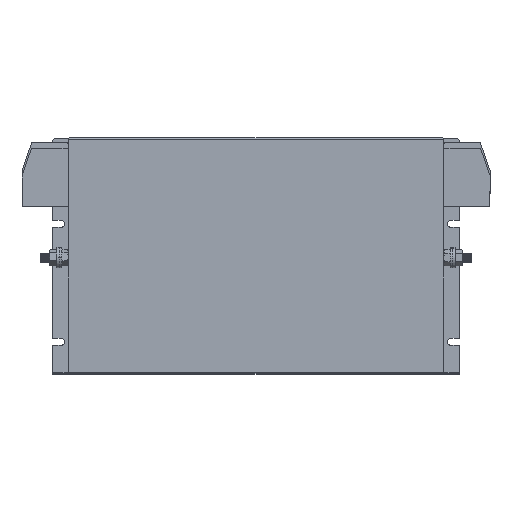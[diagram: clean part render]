
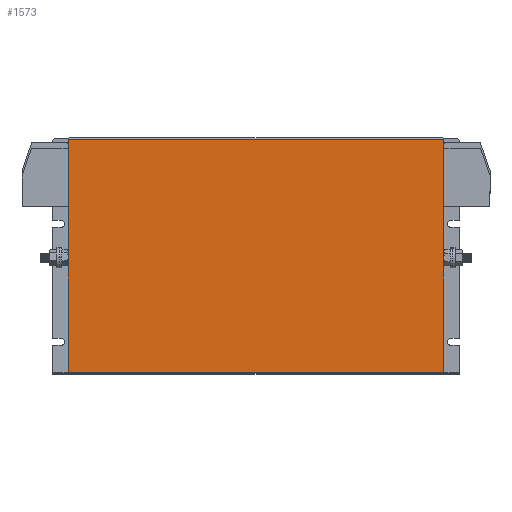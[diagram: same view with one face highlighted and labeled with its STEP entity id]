
A CAD part, top view. The second image highlights one B-rep face of the part: STEP entity #1573.
In plain terms, the highlighted planar face has unit normal (0, 0, 1).
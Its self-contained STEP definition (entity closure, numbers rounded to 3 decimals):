
#526 = PLANE ( 'NONE',  #3547 ) ;
#1135 = EDGE_CURVE ( 'NONE', #7913, #2499, #1857, .T. ) ;
#1382 = LINE ( 'NONE', #3379, #8867 ) ;
#1573 = ADVANCED_FACE ( 'NONE', ( #4833 ), #526, .F. ) ;
#1857 = LINE ( 'NONE', #4136, #5986 ) ;
#2076 = CARTESIAN_POINT ( 'NONE',  ( 14.5, 220., 1.5 ) ) ;
#2097 = CARTESIAN_POINT ( 'NONE',  ( 364.5, 220., 1.5 ) ) ;
#2339 = ORIENTED_EDGE ( 'NONE', *, *, #3861, .T. ) ;
#2499 = VERTEX_POINT ( 'NONE', #4038 ) ;
#2622 = CARTESIAN_POINT ( 'NONE',  ( 14.5, 218.5, 1.5 ) ) ;
#2753 = VERTEX_POINT ( 'NONE', #5530 ) ;
#3083 = DIRECTION ( 'NONE',  ( -1., 0., 0. ) ) ;
#3117 = VECTOR ( 'NONE', #3813, 1000. ) ;
#3379 = CARTESIAN_POINT ( 'NONE',  ( 14.5, 1.5, 1.5 ) ) ;
#3428 = DIRECTION ( 'NONE',  ( 0., -1., 0. ) ) ;
#3547 = AXIS2_PLACEMENT_3D ( 'NONE', #2076, #7426, #3083 ) ;
#3813 = DIRECTION ( 'NONE',  ( -1., 0., 0. ) ) ;
#3861 = EDGE_CURVE ( 'NONE', #2499, #9047, #1382, .T. ) ;
#4038 = CARTESIAN_POINT ( 'NONE',  ( 14.5, 1.5, 1.5 ) ) ;
#4136 = CARTESIAN_POINT ( 'NONE',  ( 14.5, 220., 1.5 ) ) ;
#4203 = ORIENTED_EDGE ( 'NONE', *, *, #1135, .T. ) ;
#4745 = DIRECTION ( 'NONE',  ( 1., 0., 0. ) ) ;
#4833 = FACE_OUTER_BOUND ( 'NONE', #7823, .T. ) ;
#5059 = LINE ( 'NONE', #5145, #3117 ) ;
#5145 = CARTESIAN_POINT ( 'NONE',  ( 14.5, 218.5, 1.5 ) ) ;
#5416 = ORIENTED_EDGE ( 'NONE', *, *, #7694, .F. ) ;
#5530 = CARTESIAN_POINT ( 'NONE',  ( 364.5, 218.5, 1.5 ) ) ;
#5711 = DIRECTION ( 'NONE',  ( 0., -1., 0. ) ) ;
#5986 = VECTOR ( 'NONE', #3428, 1000. ) ;
#6055 = CARTESIAN_POINT ( 'NONE',  ( 364.5, 1.5, 1.5 ) ) ;
#6126 = LINE ( 'NONE', #2097, #7919 ) ;
#6921 = ORIENTED_EDGE ( 'NONE', *, *, #8899, .T. ) ;
#7426 = DIRECTION ( 'NONE',  ( 0., 0., -1. ) ) ;
#7694 = EDGE_CURVE ( 'NONE', #2753, #9047, #6126, .T. ) ;
#7823 = EDGE_LOOP ( 'NONE', ( #5416, #6921, #4203, #2339 ) ) ;
#7913 = VERTEX_POINT ( 'NONE', #2622 ) ;
#7919 = VECTOR ( 'NONE', #5711, 1000. ) ;
#8867 = VECTOR ( 'NONE', #4745, 1000. ) ;
#8899 = EDGE_CURVE ( 'NONE', #2753, #7913, #5059, .T. ) ;
#9047 = VERTEX_POINT ( 'NONE', #6055 ) ;
